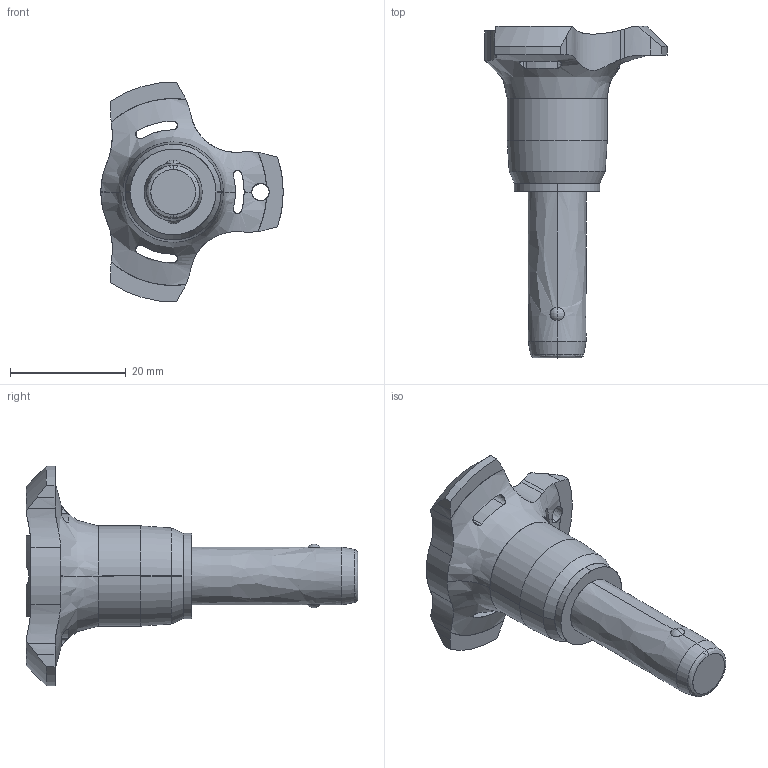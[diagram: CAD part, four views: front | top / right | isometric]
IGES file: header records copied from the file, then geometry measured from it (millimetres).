
Start section: SolidWorks IGES file using analytic representation for surfaces
Global section: file name: C:\Users\ianosborn\Desktop\33140_v2\33140_v2_20241128_IGES\33140.W0124.igs; native system: SolidWorks 2019; preprocessor: SolidWorks 2019; author: IanOsborn; date: 241128.143118; units: millimetre
Bounding box: 31.5 x 57.3 x 37.98 mm (x, y, z)
Surface area: 5497.4 mm2 (no closed solid volume)
Topology: 0 solids, 0 shells, 82 faces, 1328 edges, 1328 vertices
Faces by surface type: revolution 58, bspline 24
